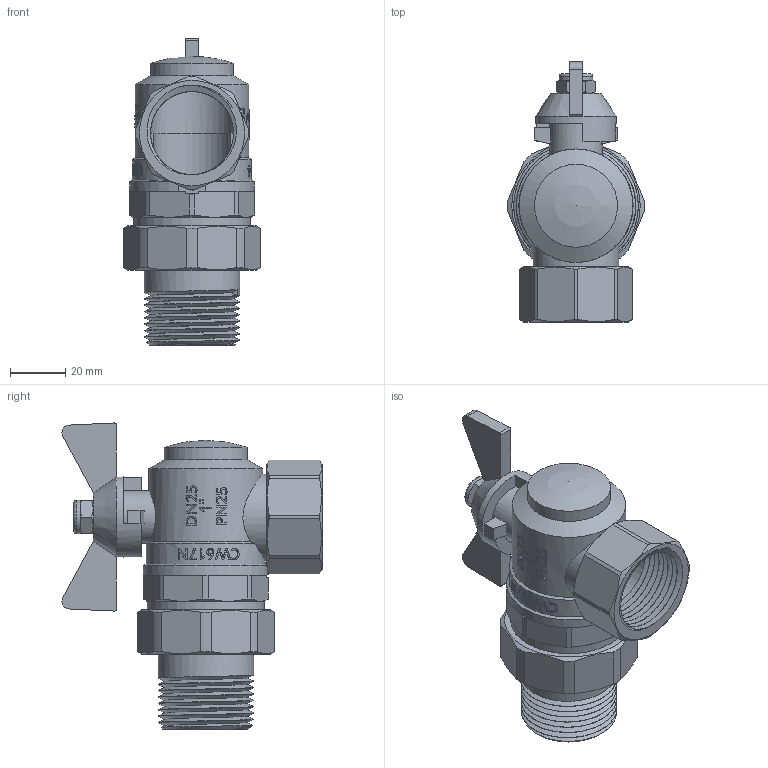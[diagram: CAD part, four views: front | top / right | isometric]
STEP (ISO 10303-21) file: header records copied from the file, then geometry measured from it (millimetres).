
FILE_DESCRIPTION(/* description */ (''),/* implementation_level */ '2;1');
FILE_NAME(/* name */ 'H:\Мишенин_3D\Исходные файлы 3D\VT.228.N.06.stp',/* time_stamp */ '2018-01-16T10:19:35+03:00',/* author */ ('MisheninAL'),/* organization */ (''),/* preprocessor_version */ 'ST-DEVELOPER v16.13',/* originating_system */ 'Autodesk Inventor 2018',/* authorisation */ '');
FILE_SCHEMA (('AUTOMOTIVE_DESIGN { 1 0 10303 214 3 1 1 }'));
Length unit declared in the file: millimetre
Products named in the file (1): VT.228_ВН_1
Bounding box: 49.38 x 93.94 x 110.54 mm (x, y, z)
Volume: 91418 mm3; surface area: 39058.4 mm2
Topology: 1 solids, 1 shells, 538 faces, 1447 edges, 951 vertices
Faces by surface type: plane 235, bspline 182, cylinder 98, cone 21, torus 1, sphere 1
Full cylindrical faces by diameter (mm): 12.011 x1, 19 x1, 28 x1, 29.131 x1, 30 x8, 31 x1, 34.493 x7, 41 x1, 42.206 x1, 43 x1, 45 x1
Entity records: 26256 total; most frequent: CARTESIAN_POINT 14398, ORIENTED_EDGE 2736, DIRECTION 1963, EDGE_CURVE 1368, VERTEX_POINT 909, AXIS2_PLACEMENT_3D 665, LINE 633, VECTOR 633
